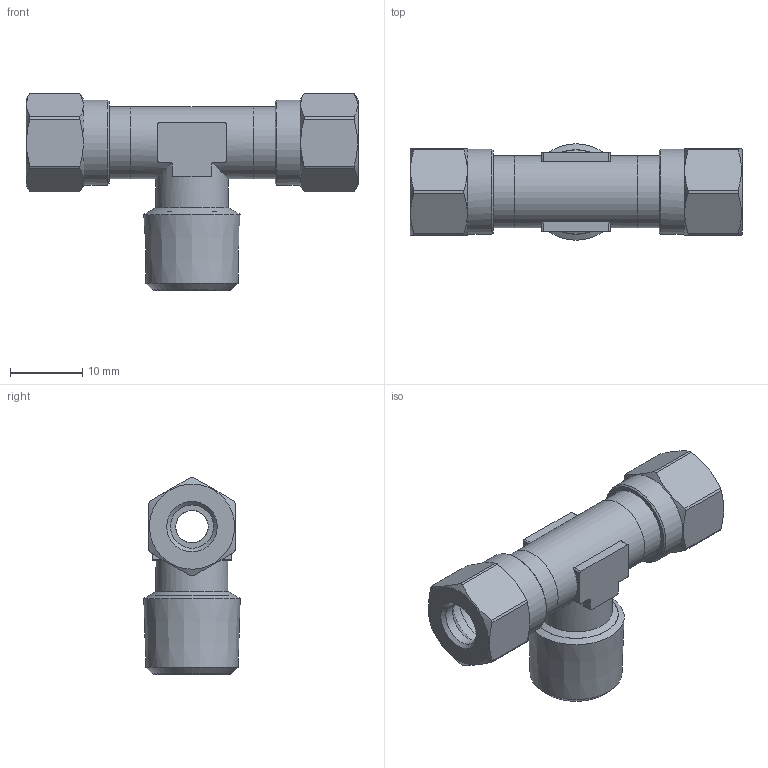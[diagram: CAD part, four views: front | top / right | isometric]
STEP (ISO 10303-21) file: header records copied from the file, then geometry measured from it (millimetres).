
FILE_DESCRIPTION(('Bauteilbeschreibung','HiCAD-Model','HiCAD-STEP-TRANSLATION','Bauteilbeschreibung'),'2;1');
FILE_NAME('B:/ABGLEICH/ZEICHNUNGEN/STEP FÜR INTERNET/STEP/207/92203_207_6_1-4.STP','2011-10-17T16:26:12+00:00',('Konstrukteur'),('Konstrukteur Firma GmbH'),' HiCAD neXt 2008, Step 3.1.1401.2J ','HiCAD neXt 2008','confidential');
FILE_SCHEMA(('AUTOMOTIVE_DESIGN { 1 2 10303 214 0 1 1 1 }'));
Length unit declared in the file: millimetre
Products named in the file (12): A2203_207_6_1_4; A2203; A22030; R 1_4; DIN 13_M10X1; DIN0130M10X1; A6802; A68020; DIN0130M10X10; A68021; A68022; DIN0130M10X11
Assembly tree (11 placements, depth 3):
  A2203_207_6_1_4
    A2203
    A22030
      R 1_4
      DIN 13_M10X1
      DIN0130M10X1
    A6802
    A68020
      DIN0130M10X10
    A68021
    A68022
      DIN0130M10X11
Bounding box: 46 x 13.36 x 27.32 mm (x, y, z)
Volume: 4427.3 mm3; surface area: 6969.9 mm2
Topology: 8 solids, 8 shells, 133 faces, 342 edges, 225 vertices
Faces by surface type: cylinder 54, plane 49, cone 30
Full cylindrical faces by diameter (mm): 4.5 x2, 6 x5, 8 x1, 8.773 x8, 10 x8, 11.8 x2
Entity records: 8869 total; most frequent: CARTESIAN_POINT 4596, DIRECTION 632, ORIENTED_EDGE 504, AXIS2_PLACEMENT_3D 275, EDGE_CURVE 252, COLOUR_RGB 234, PRESENTATION_STYLE_ASSIGNMENT 234, CURVE_STYLE 226
